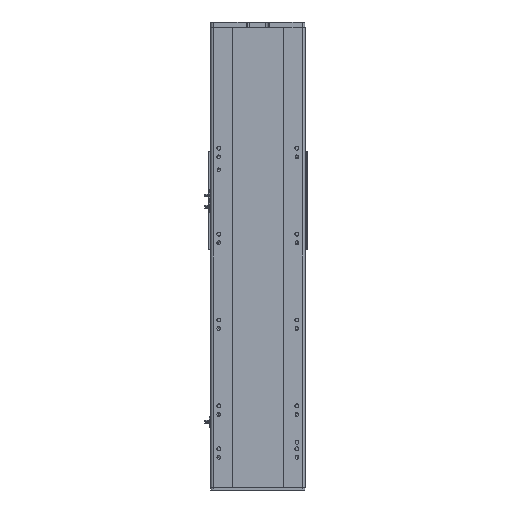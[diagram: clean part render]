
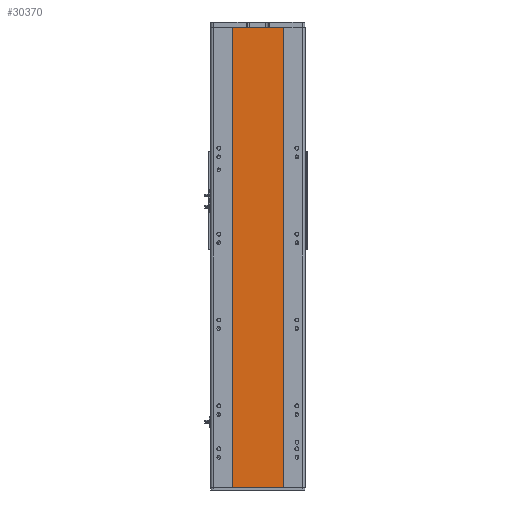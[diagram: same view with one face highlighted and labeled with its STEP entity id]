
A CAD part, front view. The second image highlights one B-rep face of the part: STEP entity #30370.
In plain terms, the highlighted planar face has unit normal (0, -1, 0).
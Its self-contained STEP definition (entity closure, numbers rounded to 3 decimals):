
#374 = LINE ( 'NONE', #16267, #7091 ) ;
#808 = EDGE_CURVE ( 'NONE', #27833, #34767, #13576, .T. ) ;
#1401 = CARTESIAN_POINT ( 'NONE',  ( -59., 1., 535.5 ) ) ;
#2334 = VECTOR ( 'NONE', #27011, 1000. ) ;
#2431 = ORIENTED_EDGE ( 'NONE', *, *, #25757, .F. ) ;
#3666 = FACE_OUTER_BOUND ( 'NONE', #36277, .T. ) ;
#6125 = LINE ( 'NONE', #36702, #23087 ) ;
#6459 = CARTESIAN_POINT ( 'NONE',  ( -59., 1., 535.5 ) ) ;
#7091 = VECTOR ( 'NONE', #19170, 1000. ) ;
#7795 = EDGE_CURVE ( 'NONE', #34767, #33387, #374, .T. ) ;
#7859 = VERTEX_POINT ( 'NONE', #30187 ) ;
#8779 = DIRECTION ( 'NONE',  ( 0., 0., -1. ) ) ;
#11958 = PLANE ( 'NONE',  #22760 ) ;
#13128 = CARTESIAN_POINT ( 'NONE',  ( -59., 1., 535.5 ) ) ;
#13576 = LINE ( 'NONE', #1401, #2334 ) ;
#13723 = EDGE_CURVE ( 'NONE', #7859, #33387, #31306, .T. ) ;
#16267 = CARTESIAN_POINT ( 'NONE',  ( -59., 1., -535.5 ) ) ;
#17534 = ORIENTED_EDGE ( 'NONE', *, *, #13723, .F. ) ;
#18014 = DIRECTION ( 'NONE',  ( -1., 0., 0. ) ) ;
#18204 = CARTESIAN_POINT ( 'NONE',  ( -59., 1., -535.5 ) ) ;
#18499 = CARTESIAN_POINT ( 'NONE',  ( 59., 1., -535.5 ) ) ;
#19170 = DIRECTION ( 'NONE',  ( 1., 0., 0. ) ) ;
#21862 = VECTOR ( 'NONE', #8779, 1000. ) ;
#22760 = AXIS2_PLACEMENT_3D ( 'NONE', #6459, #34776, #18014 ) ;
#23087 = VECTOR ( 'NONE', #25302, 1000. ) ;
#25302 = DIRECTION ( 'NONE',  ( 1., 0., 0. ) ) ;
#25757 = EDGE_CURVE ( 'NONE', #27833, #7859, #6125, .T. ) ;
#27011 = DIRECTION ( 'NONE',  ( 0., 0., -1. ) ) ;
#27833 = VERTEX_POINT ( 'NONE', #13128 ) ;
#28742 = CARTESIAN_POINT ( 'NONE',  ( 59., 1., 535.5 ) ) ;
#29385 = ORIENTED_EDGE ( 'NONE', *, *, #808, .T. ) ;
#30187 = CARTESIAN_POINT ( 'NONE',  ( 59., 1., 535.5 ) ) ;
#30370 = ADVANCED_FACE ( 'NONE', ( #3666 ), #11958, .F. ) ;
#31306 = LINE ( 'NONE', #28742, #21862 ) ;
#33387 = VERTEX_POINT ( 'NONE', #18499 ) ;
#33650 = ORIENTED_EDGE ( 'NONE', *, *, #7795, .T. ) ;
#34767 = VERTEX_POINT ( 'NONE', #18204 ) ;
#34776 = DIRECTION ( 'NONE',  ( 0., 1., 0. ) ) ;
#36277 = EDGE_LOOP ( 'NONE', ( #33650, #17534, #2431, #29385 ) ) ;
#36702 = CARTESIAN_POINT ( 'NONE',  ( -59., 1., 535.5 ) ) ;
